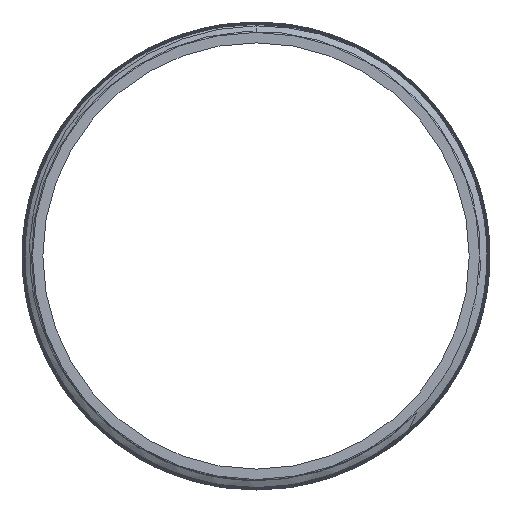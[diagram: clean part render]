
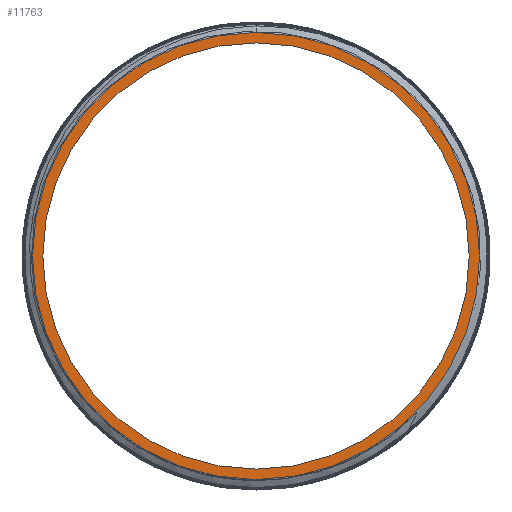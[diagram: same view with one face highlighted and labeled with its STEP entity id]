
A CAD part, left-side view. The second image highlights one B-rep face of the part: STEP entity #11763.
In plain terms, the highlighted planar face has unit normal (-1, 0, 0).
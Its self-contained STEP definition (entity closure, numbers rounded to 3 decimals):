
#15 = CARTESIAN_POINT ( 'NONE',  ( -100., 0., 0. ) ) ;
#289 = CARTESIAN_POINT ( 'NONE',  ( -100., 0., 0. ) ) ;
#708 = CARTESIAN_POINT ( 'NONE',  ( -100., 0., -15.35 ) ) ;
#815 = DIRECTION ( 'NONE',  ( -1., 0., 0. ) ) ;
#1269 = DIRECTION ( 'NONE',  ( 0., 0., 1. ) ) ;
#1296 = ORIENTED_EDGE ( 'NONE', *, *, #11915, .F. ) ;
#1371 = VERTEX_POINT ( 'NONE', #2994 ) ;
#1472 = VERTEX_POINT ( 'NONE', #4534 ) ;
#1749 = DIRECTION ( 'NONE',  ( 0., 0., 1. ) ) ;
#2117 = DIRECTION ( 'NONE',  ( -1., 0., 0. ) ) ;
#2215 = CARTESIAN_POINT ( 'NONE',  ( -100., 0., 0. ) ) ;
#2757 = AXIS2_PLACEMENT_3D ( 'NONE', #289, #2117, #1269 ) ;
#2826 = EDGE_LOOP ( 'NONE', ( #8939, #10796 ) ) ;
#2994 = CARTESIAN_POINT ( 'NONE',  ( -100., 0., 15.35 ) ) ;
#3302 = CIRCLE ( 'NONE', #10110, 16.1 ) ;
#3420 = VERTEX_POINT ( 'NONE', #708 ) ;
#3935 = EDGE_CURVE ( 'NONE', #1371, #3420, #5492, .T. ) ;
#4534 = CARTESIAN_POINT ( 'NONE',  ( -100., 0., -16.1 ) ) ;
#4795 = FACE_OUTER_BOUND ( 'NONE', #2826, .T. ) ;
#5427 = CIRCLE ( 'NONE', #12041, 16.1 ) ;
#5492 = CIRCLE ( 'NONE', #8616, 15.35 ) ;
#5528 = DIRECTION ( 'NONE',  ( 1., 0., 0. ) ) ;
#5644 = FACE_BOUND ( 'NONE', #7948, .T. ) ;
#5927 = DIRECTION ( 'NONE',  ( -1., 0., 0. ) ) ;
#6375 = CARTESIAN_POINT ( 'NONE',  ( -100., 0., 0. ) ) ;
#7216 = DIRECTION ( 'NONE',  ( 0., 0., 1. ) ) ;
#7361 = DIRECTION ( 'NONE',  ( 0., 0., -1. ) ) ;
#7379 = CARTESIAN_POINT ( 'NONE',  ( -100., 0., 16.1 ) ) ;
#7948 = EDGE_LOOP ( 'NONE', ( #9952, #1296 ) ) ;
#8616 = AXIS2_PLACEMENT_3D ( 'NONE', #6375, #10096, #1749 ) ;
#8939 = ORIENTED_EDGE ( 'NONE', *, *, #10554, .T. ) ;
#9260 = PLANE ( 'NONE',  #9947 ) ;
#9655 = DIRECTION ( 'NONE',  ( 0., 0., 1. ) ) ;
#9854 = VERTEX_POINT ( 'NONE', #7379 ) ;
#9947 = AXIS2_PLACEMENT_3D ( 'NONE', #11141, #5528, #7361 ) ;
#9952 = ORIENTED_EDGE ( 'NONE', *, *, #3935, .F. ) ;
#10096 = DIRECTION ( 'NONE',  ( -1., 0., 0. ) ) ;
#10110 = AXIS2_PLACEMENT_3D ( 'NONE', #2215, #5927, #9655 ) ;
#10343 = EDGE_CURVE ( 'NONE', #9854, #1472, #5427, .T. ) ;
#10554 = EDGE_CURVE ( 'NONE', #1472, #9854, #3302, .T. ) ;
#10796 = ORIENTED_EDGE ( 'NONE', *, *, #10343, .T. ) ;
#10923 = CIRCLE ( 'NONE', #2757, 15.35 ) ;
#11141 = CARTESIAN_POINT ( 'NONE',  ( -100., 15.35, 0. ) ) ;
#11763 = ADVANCED_FACE ( 'NONE', ( #5644, #4795 ), #9260, .F. ) ;
#11915 = EDGE_CURVE ( 'NONE', #3420, #1371, #10923, .T. ) ;
#12041 = AXIS2_PLACEMENT_3D ( 'NONE', #15, #815, #7216 ) ;
